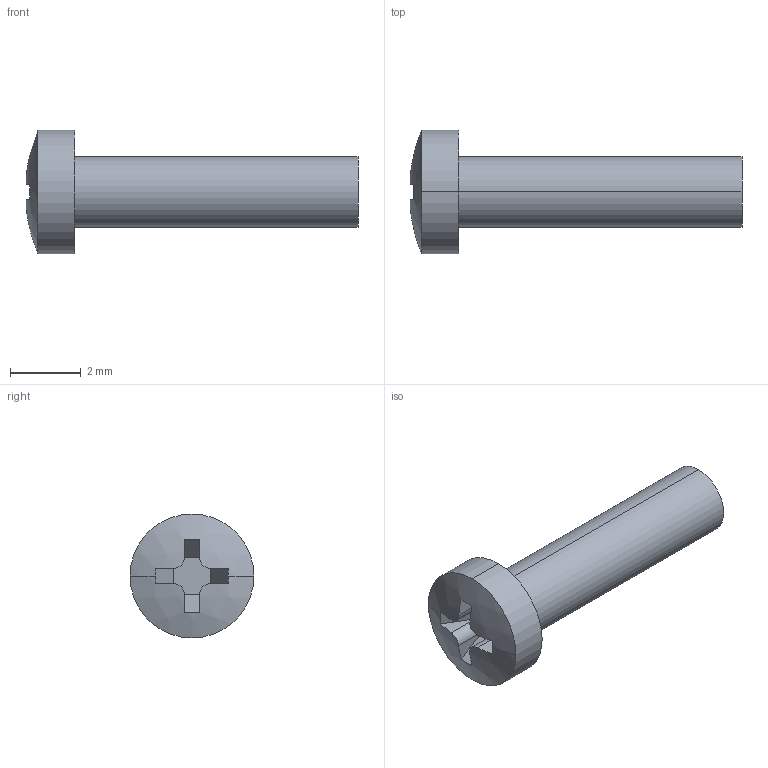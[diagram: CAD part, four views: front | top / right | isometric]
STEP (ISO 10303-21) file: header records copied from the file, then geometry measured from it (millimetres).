
FILE_DESCRIPTION(('Open CASCADE Model'),'2;1');
FILE_NAME('gb-small-pan-head-screw-m2-x-8.step','2026-11-14T14:31:58',( 'Author'),('Open CASCADE'),'Open CASCADE STEP processor 8.0', 'Open CASCADE 8.0','Unknown');
FILE_SCHEMA(('AP242_MANAGED_MODEL_BASED_3D_ENGINEERING_MIM_LF {1 0 10303 442 1 1 4 }' ));
Length unit declared in the file: millimetre
Products named in the file (1): GB Small Pan Head Screw M2 x 8
Bounding box: 9.38 x 3.5 x 3.5 mm (x, y, z)
Volume: 35.7 mm3; surface area: 86.1 mm2
Topology: 1 solids, 1 shells, 25 faces, 66 edges, 44 vertices
Faces by surface type: plane 15, cylinder 8, sphere 2
Entity records: 2200 total; most frequent: CARTESIAN_POINT 980, DIRECTION 212, ORIENTED_EDGE 132, PCURVE 132, DEFINITIONAL_REPRESENTATION 132, LINE 94, VECTOR 94, EDGE_CURVE 66
